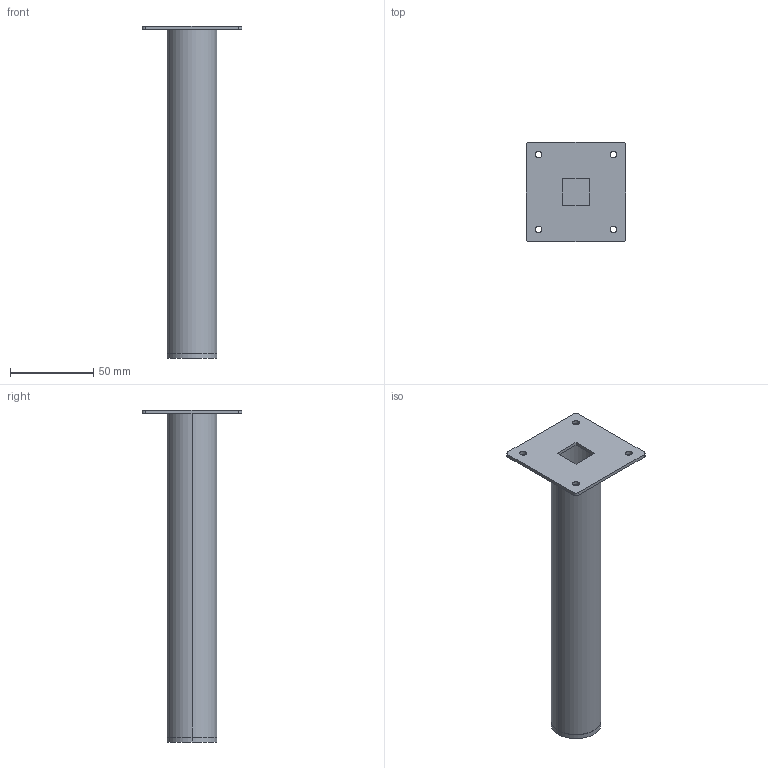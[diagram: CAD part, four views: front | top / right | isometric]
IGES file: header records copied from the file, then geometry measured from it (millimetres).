
Start section: Data from XPlus IGES,  Spatial Corp. Copyright (c) 1999-2004
Global section: file name: 45771.igs; native system:  By Spatial Corp.; preprocessor: XPlus ACIS/IGES 3.0; author: Noname; organization: Noname; date: 20140207.105320; units: millimetre
Bounding box: 60 x 60 x 200 mm (x, y, z)
Surface area: 44507.1 mm2 (no closed solid volume)
Topology: 0 solids, 0 shells, 35 faces, 168 edges, 168 vertices
Faces by surface type: revolution 20, extrusion 15
